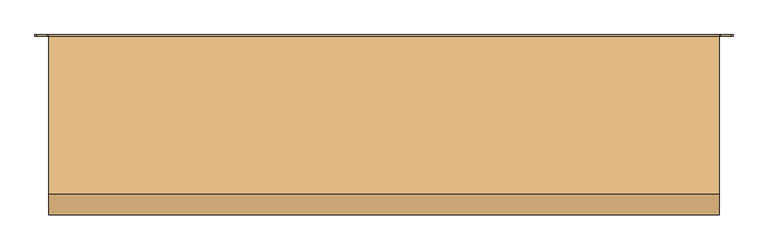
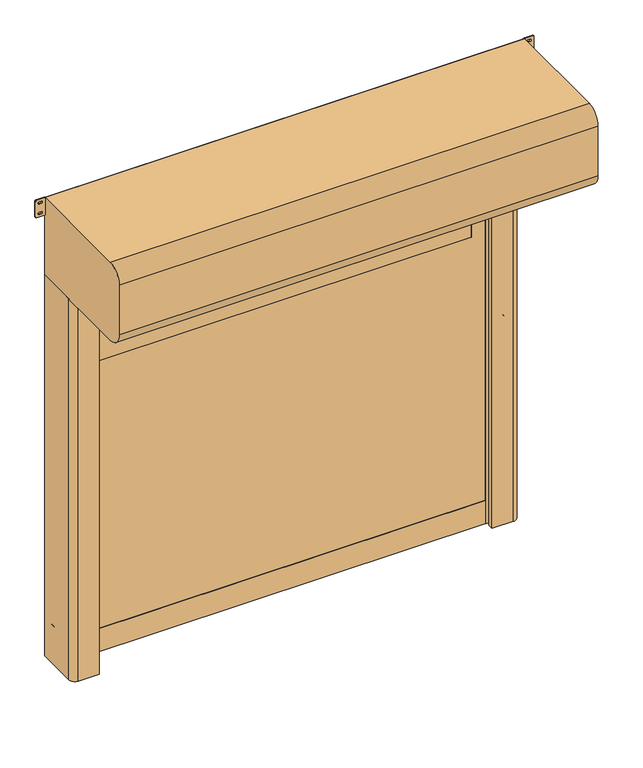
"""IFC4 building model written with IfcOpenShell, lengths in millimetres: door geometry, DO_WPB_Dynamicroll_BMP : Dynamicroll B-Drive."""

from ifc_helpers import new_model, si_unit, point, frame, frame_2d, origin, origin_with_axes, place, context, project, spatial, polyline, circle_curve, trimmed, segment, composite_curve, outline, extrude, source, transform, mapped, element, save


def door_8e405e60(model_context):
    return source(origin(), model_context, "Body", "SweptSolid", [
        extrude(outline(composite_curve([segment(trimmed(circle_curve(frame_2d((1000.0, 1109.0)), 6.0), [point((1006.0, 1109.0))], [point((994.0, 1109.0))], False, "CARTESIAN"), True, "CONTINUOUS"), segment(polyline([(994.0, 1109.0), (994.0, 1127.0)]), True, "CONTINUOUS"), segment(trimmed(circle_curve(frame_2d((1000.0, 1127.0)), 6.0), [point((994.0, 1127.0))], [point((1006.0, 1127.0))], False, "CARTESIAN"), True, "CONTINUOUS"), segment(polyline([(1006.0, 1127.0), (1006.0, 1109.0)]), True, "CONTINUOUS")], self_intersect=False)), frame((0.0, -20.0, 0.0), z_axis=(0.0, 1.0, 0.0), x_axis=(0.0, 0.0, 1.0)), (0.0, 0.0, 1.0), 20.0),
        extrude(outline(composite_curve([segment(trimmed(circle_curve(frame_2d((1850.0, 1109.0)), 6.0), [point((1856.0, 1109.0))], [point((1844.0, 1109.0))], False, "CARTESIAN"), True, "CONTINUOUS"), segment(polyline([(1844.0, 1109.0), (1844.0, 1127.0)]), True, "CONTINUOUS"), segment(trimmed(circle_curve(frame_2d((1850.0, 1127.0)), 6.0), [point((1844.0, 1127.0))], [point((1856.0, 1127.0))], False, "CARTESIAN"), True, "CONTINUOUS"), segment(polyline([(1856.0, 1127.0), (1856.0, 1109.0)]), True, "CONTINUOUS")], self_intersect=False)), frame((0.0, -20.0, 0.0), z_axis=(0.0, 1.0, 0.0), x_axis=(0.0, 0.0, 1.0)), (0.0, 0.0, 1.0), 20.0),
        extrude(outline(composite_curve([segment(trimmed(circle_curve(frame_2d((150.0, 1109.0)), 6.0), [point((156.0, 1109.0))], [point((144.0, 1109.0))], False, "CARTESIAN"), True, "CONTINUOUS"), segment(polyline([(144.0, 1109.0), (144.0, 1127.0)]), True, "CONTINUOUS"), segment(trimmed(circle_curve(frame_2d((150.0, 1127.0)), 6.0), [point((144.0, 1127.0))], [point((156.0, 1127.0))], False, "CARTESIAN"), True, "CONTINUOUS"), segment(polyline([(156.0, 1127.0), (156.0, 1109.0)]), True, "CONTINUOUS")], self_intersect=False)), frame((0.0, -20.0, 0.0), z_axis=(0.0, 1.0, 0.0), x_axis=(0.0, 0.0, 1.0)), (0.0, 0.0, 1.0), 20.0),
        extrude(outline(composite_curve([segment(polyline([(1006.0, -1109.0), (1006.0, -1127.0)]), True, "CONTINUOUS"), segment(trimmed(circle_curve(frame_2d((1000.0, -1127.0)), 6.0), [point((1006.0, -1127.0))], [point((994.0, -1127.0))], False, "CARTESIAN"), True, "CONTINUOUS"), segment(polyline([(994.0, -1127.0), (994.0, -1109.0)]), True, "CONTINUOUS"), segment(trimmed(circle_curve(frame_2d((1000.0, -1109.0)), 6.0), [point((994.0, -1109.0))], [point((1006.0, -1109.0))], False, "CARTESIAN"), True, "CONTINUOUS")], self_intersect=False)), frame((0.0, -20.0, 0.0), z_axis=(0.0, 1.0, 0.0), x_axis=(0.0, 0.0, 1.0)), (0.0, 0.0, 1.0), 20.0),
        extrude(outline(composite_curve([segment(polyline([(1856.0, -1109.0), (1856.0, -1127.0)]), True, "CONTINUOUS"), segment(trimmed(circle_curve(frame_2d((1850.0, -1127.0)), 6.0), [point((1856.0, -1127.0))], [point((1844.0, -1127.0))], False, "CARTESIAN"), True, "CONTINUOUS"), segment(polyline([(1844.0, -1127.0), (1844.0, -1109.0)]), True, "CONTINUOUS"), segment(trimmed(circle_curve(frame_2d((1850.0, -1109.0)), 6.0), [point((1844.0, -1109.0))], [point((1856.0, -1109.0))], False, "CARTESIAN"), True, "CONTINUOUS")], self_intersect=False)), frame((0.0, -20.0, 0.0), z_axis=(0.0, 1.0, 0.0), x_axis=(0.0, 0.0, 1.0)), (0.0, 0.0, 1.0), 20.0),
        extrude(outline(composite_curve([segment(polyline([(156.0, -1109.0), (156.0, -1127.0)]), True, "CONTINUOUS"), segment(trimmed(circle_curve(frame_2d((150.0, -1127.0)), 6.0), [point((156.0, -1127.0))], [point((144.0, -1127.0))], False, "CARTESIAN"), True, "CONTINUOUS"), segment(polyline([(144.0, -1127.0), (144.0, -1109.0)]), True, "CONTINUOUS"), segment(trimmed(circle_curve(frame_2d((150.0, -1109.0)), 6.0), [point((144.0, -1109.0))], [point((156.0, -1109.0))], False, "CARTESIAN"), True, "CONTINUOUS")], self_intersect=False)), frame((0.0, -20.0, 0.0), z_axis=(0.0, 1.0, 0.0), x_axis=(0.0, 0.0, 1.0)), (0.0, 0.0, 1.0), 20.0),
        extrude(outline(composite_curve([segment(trimmed(circle_curve(frame_2d((1526.0, 929.0)), 1.0), [point((1525.0, 929.0))], [point((1526.0, 930.0))], False, "CARTESIAN"), True, "CONTINUOUS"), segment(polyline([(1526.0, 930.0), (2024.0, 930.0)]), True, "CONTINUOUS"), segment(trimmed(circle_curve(frame_2d((2024.0, 929.0)), 1.0), [point((2024.0, 930.0))], [point((2025.0, 929.0))], False, "CARTESIAN"), True, "CONTINUOUS"), segment(polyline([(2025.0, 929.0), (2025.0, -929.0)]), True, "CONTINUOUS"), segment(trimmed(circle_curve(frame_2d((2024.0, -929.0)), 1.0), [point((2025.0, -929.0))], [point((2024.0, -930.0))], False, "CARTESIAN"), True, "CONTINUOUS"), segment(polyline([(2024.0, -930.0), (1526.0, -930.0)]), True, "CONTINUOUS"), segment(trimmed(circle_curve(frame_2d((1526.0, -929.0)), 1.0), [point((1526.0, -930.0))], [point((1525.0, -929.0))], False, "CARTESIAN"), True, "CONTINUOUS"), segment(polyline([(1525.0, -929.0), (1525.0, 929.0)]), True, "CONTINUOUS")], self_intersect=False)), frame((0.0, -86.0, 0.0), z_axis=(0.0, 1.0, 0.0), x_axis=(0.0, 0.0, 1.0)), (0.0, 0.0, 1.0), 7.0),
        extrude(outline(polyline([(120.0, -1012.0), (120.0, 1012.0), (2205.0, 1012.0), (2205.0, -1012.0), (120.0, -1012.0)]), holes=[composite_curve([segment(trimmed(circle_curve(frame_2d((1526.0, 929.0)), 1.0), [point((1526.0, 930.0))], [point((1525.0, 929.0))], True, "CARTESIAN"), True, "CONTINUOUS"), segment(polyline([(1525.0, 929.0), (1525.0, -929.0)]), True, "CONTINUOUS"), segment(trimmed(circle_curve(frame_2d((1526.0, -929.0)), 1.0), [point((1525.0, -929.0))], [point((1526.0, -930.0))], True, "CARTESIAN"), True, "CONTINUOUS"), segment(polyline([(1526.0, -930.0), (2024.0, -930.0)]), True, "CONTINUOUS"), segment(trimmed(circle_curve(frame_2d((2024.0, -929.0)), 1.0), [point((2024.0, -930.0))], [point((2025.0, -929.0))], True, "CARTESIAN"), True, "CONTINUOUS"), segment(polyline([(2025.0, -929.0), (2025.0, 929.0)]), True, "CONTINUOUS"), segment(trimmed(circle_curve(frame_2d((2024.0, 929.0)), 1.0), [point((2025.0, 929.0))], [point((2024.0, 930.0))], True, "CARTESIAN"), True, "CONTINUOUS"), segment(polyline([(2024.0, 930.0), (1526.0, 930.0)]), True, "CONTINUOUS")], self_intersect=False)]), frame((0.0, -86.0, 0.0), z_axis=(0.0, 1.0, 0.0), x_axis=(0.0, 0.0, 1.0)), (0.0, 0.0, 1.0), 7.0),
        extrude(outline(polyline([(-1012.0, -77.0), (1012.0, -77.0), (1012.0, -88.0), (-1012.0, -88.0), (-1012.0, -77.0)])), origin_with_axes(), (0.0, 0.0, 1.0), 120.0),
        extrude(outline(composite_curve([segment(polyline([(-1140.0, 0.0), (-1015.0, 0.0), (-1015.0, -66.7857143), (-1035.0, -72.5), (-1000.0, -72.5), (-1000.0, -79.0), (-1020.0, -79.0), (-1020.0, -86.0), (-1000.0, -86.0), (-1000.0, -92.5), (-1035.0, -92.5), (-1035.0, -107.5), (-1005.0, -107.5), (-1005.0, -235.0), (-1110.0, -235.0)]), True, "CONTINUOUS"), segment(trimmed(circle_curve(frame_2d((-1110.0, -205.0)), 30.0), [point((-1110.0, -235.0))], [point((-1140.0, -205.0))], False, "CARTESIAN"), True, "CONTINUOUS"), segment(polyline([(-1140.0, -205.0), (-1140.0, 0.0)]), True, "CONTINUOUS")], self_intersect=False)), origin_with_axes(), (0.0, 0.0, 1.0), 2000.0),
        extrude(outline(composite_curve([segment(polyline([(1140.0, 0.0), (1140.0, -105.0)]), True, "CONTINUOUS"), segment(trimmed(circle_curve(frame_2d((1110.0, -105.0)), 30.0), [point((1140.0, -105.0))], [point((1110.0, -135.0))], False, "CARTESIAN"), True, "CONTINUOUS"), segment(polyline([(1110.0, -135.0), (1005.0, -135.0), (1005.0, -107.5), (1035.0, -107.5), (1035.0, -92.5), (1000.0, -92.5), (1000.0, -86.0), (1020.0, -86.0), (1020.0, -79.0), (1000.0, -79.0), (1000.0, -72.5), (1035.0, -72.5), (1015.0, -66.7857143), (1015.0, 0.0), (1140.0, 0.0)]), True, "CONTINUOUS")], self_intersect=False)), origin_with_axes(), (0.0, 0.0, 1.0), 2000.0),
        extrude(outline(composite_curve([segment(trimmed(circle_curve(frame_2d((2323.75, -1183.25)), 5.75), [point((2323.75, -1189.0))], [point((2318.0, -1183.25))], False, "CARTESIAN"), True, "CONTINUOUS"), segment(polyline([(2318.0, -1183.25), (2318.0, -1145.75)]), True, "CONTINUOUS"), segment(trimmed(circle_curve(frame_2d((2323.75, -1145.75)), 5.75), [point((2318.0, -1145.75))], [point((2323.75, -1140.0))], False, "CARTESIAN"), True, "CONTINUOUS"), segment(polyline([(2323.75, -1140.0), (2404.25, -1140.0)]), True, "CONTINUOUS"), segment(trimmed(circle_curve(frame_2d((2404.25, -1145.75)), 5.75), [point((2404.25, -1140.0))], [point((2410.0, -1145.75))], False, "CARTESIAN"), True, "CONTINUOUS"), segment(polyline([(2410.0, -1145.75), (2410.0, -1183.25)]), True, "CONTINUOUS"), segment(trimmed(circle_curve(frame_2d((2404.25, -1183.25)), 5.75), [point((2410.0, -1183.25))], [point((2404.25, -1189.0))], False, "CARTESIAN"), True, "CONTINUOUS"), segment(polyline([(2404.25, -1189.0), (2323.75, -1189.0)]), True, "CONTINUOUS")], self_intersect=False), holes=[composite_curve([segment(trimmed(circle_curve(frame_2d((2391.5, -1160.25)), 5.75), [point((2397.25, -1160.25))], [point((2385.75, -1160.25))], True, "CARTESIAN"), True, "CONTINUOUS"), segment(polyline([(2385.75, -1160.25), (2385.75, -1168.75)]), True, "CONTINUOUS"), segment(trimmed(circle_curve(frame_2d((2391.5, -1168.75)), 5.75), [point((2385.75, -1168.75))], [point((2397.25, -1168.75))], True, "CARTESIAN"), True, "CONTINUOUS"), segment(polyline([(2397.25, -1168.75), (2397.25, -1160.25)]), True, "CONTINUOUS")], self_intersect=False), composite_curve([segment(trimmed(circle_curve(frame_2d((2336.5, -1160.25)), 5.75), [point((2342.25, -1160.25))], [point((2330.75, -1160.25))], True, "CARTESIAN"), True, "CONTINUOUS"), segment(polyline([(2330.75, -1160.25), (2330.75, -1168.75)]), True, "CONTINUOUS"), segment(trimmed(circle_curve(frame_2d((2336.5, -1168.75)), 5.75), [point((2330.75, -1168.75))], [point((2342.25, -1168.75))], True, "CARTESIAN"), True, "CONTINUOUS"), segment(polyline([(2342.25, -1168.75), (2342.25, -1160.25)]), True, "CONTINUOUS")], self_intersect=False)]), frame((0.0, -5.0, 0.0), z_axis=(0.0, 1.0, 0.0), x_axis=(0.0, 0.0, 1.0)), (0.0, 0.0, 1.0), 5.0),
        extrude(outline(composite_curve([segment(trimmed(circle_curve(frame_2d((2323.75, 1245.75)), 5.75), [point((2323.75, 1240.0))], [point((2318.0, 1245.75))], False, "CARTESIAN"), True, "CONTINUOUS"), segment(polyline([(2318.0, 1245.75), (2318.0, 1283.25)]), True, "CONTINUOUS"), segment(trimmed(circle_curve(frame_2d((2323.75, 1283.25)), 5.75), [point((2318.0, 1283.25))], [point((2323.75, 1289.0))], False, "CARTESIAN"), True, "CONTINUOUS"), segment(polyline([(2323.75, 1289.0), (2404.25, 1289.0)]), True, "CONTINUOUS"), segment(trimmed(circle_curve(frame_2d((2404.25, 1283.25)), 5.75), [point((2404.25, 1289.0))], [point((2410.0, 1283.25))], False, "CARTESIAN"), True, "CONTINUOUS"), segment(polyline([(2410.0, 1283.25), (2410.0, 1245.75)]), True, "CONTINUOUS"), segment(trimmed(circle_curve(frame_2d((2404.25, 1245.75)), 5.75), [point((2410.0, 1245.75))], [point((2404.25, 1240.0))], False, "CARTESIAN"), True, "CONTINUOUS"), segment(polyline([(2404.25, 1240.0), (2323.75, 1240.0)]), True, "CONTINUOUS")], self_intersect=False), holes=[composite_curve([segment(trimmed(circle_curve(frame_2d((2391.5, 1268.75)), 5.75), [point((2397.25, 1268.75))], [point((2385.75, 1268.75))], True, "CARTESIAN"), True, "CONTINUOUS"), segment(polyline([(2385.75, 1268.75), (2385.75, 1260.25)]), True, "CONTINUOUS"), segment(trimmed(circle_curve(frame_2d((2391.5, 1260.25)), 5.75), [point((2385.75, 1260.25))], [point((2397.25, 1260.25))], True, "CARTESIAN"), True, "CONTINUOUS"), segment(polyline([(2397.25, 1260.25), (2397.25, 1268.75)]), True, "CONTINUOUS")], self_intersect=False), composite_curve([segment(trimmed(circle_curve(frame_2d((2336.5, 1268.75)), 5.75), [point((2342.25, 1268.75))], [point((2330.75, 1268.75))], True, "CARTESIAN"), True, "CONTINUOUS"), segment(polyline([(2330.75, 1268.75), (2330.75, 1260.25)]), True, "CONTINUOUS"), segment(trimmed(circle_curve(frame_2d((2336.5, 1260.25)), 5.75), [point((2330.75, 1260.25))], [point((2342.25, 1260.25))], True, "CARTESIAN"), True, "CONTINUOUS"), segment(polyline([(2342.25, 1260.25), (2342.25, 1268.75)]), True, "CONTINUOUS")], self_intersect=False)]), frame((0.0, -5.0, 0.0), z_axis=(0.0, 1.0, 0.0), x_axis=(0.0, 0.0, 1.0)), (0.0, 0.0, 1.0), 5.0),
        extrude(outline(composite_curve([segment(trimmed(circle_curve(frame_2d((-5.0, 2005.0)), 5.0), [point((0.0, 2005.0))], [point((-5.0, 2000.0))], False, "CARTESIAN"), True, "CONTINUOUS"), segment(polyline([(-5.0, 2000.0), (-565.0, 2000.0)]), True, "CONTINUOUS"), segment(trimmed(circle_curve(frame_2d((-565.0, 2075.0)), 75.0), [point((-565.0, 2000.0))], [point((-640.0, 2075.0))], False, "CARTESIAN"), True, "CONTINUOUS"), segment(polyline([(-640.0, 2075.0), (-640.0, 2335.0)]), True, "CONTINUOUS"), segment(trimmed(circle_curve(frame_2d((-565.0, 2335.0)), 75.0), [point((-640.0, 2335.0))], [point((-565.0, 2410.0))], False, "CARTESIAN"), True, "CONTINUOUS"), segment(polyline([(-565.0, 2410.0), (-5.0, 2410.0)]), True, "CONTINUOUS"), segment(trimmed(circle_curve(frame_2d((-5.0, 2405.0)), 5.0), [point((-5.0, 2410.0))], [point((0.0, 2405.0))], False, "CARTESIAN"), True, "CONTINUOUS"), segment(polyline([(0.0, 2405.0), (0.0, 2005.0)]), True, "CONTINUOUS")], self_intersect=False)), frame((-1140.0, 0.0, 0.0), z_axis=(1.0, 0.0, 0.0), x_axis=(0.0, 1.0, 0.0)), (0.0, 0.0, 1.0), 2380.0),
    ])


if __name__ == "__main__":
    model = new_model("IFC4")
    model_context = context("Model", 3, world=origin())
    ifc_project = project(units=[si_unit("LENGTHUNIT", "METRE", prefix="MILLI")], contexts=[model_context])
    site = spatial("IfcSite", under=ifc_project)
    building = spatial("IfcBuilding", under=site)
    placement = place(None, origin())
    door_shape = door_8e405e60(model_context)
    element("IfcDoor", 1, ObjectType="DO_WPB_Dynamicroll_BMP : Dynamicroll B-Drive", at=placement, inside=building, context=model_context, shape_type="MappedRepresentation", body=[
        mapped(door_shape, transform((0.0, 0.0, 0.0), x_axis=(1.0, 0.0, 0.0), y_axis=(0.0, 1.0, 0.0), z_axis=(0.0, 0.0, 1.0))),
    ])
    save(model, "model.ifc")
